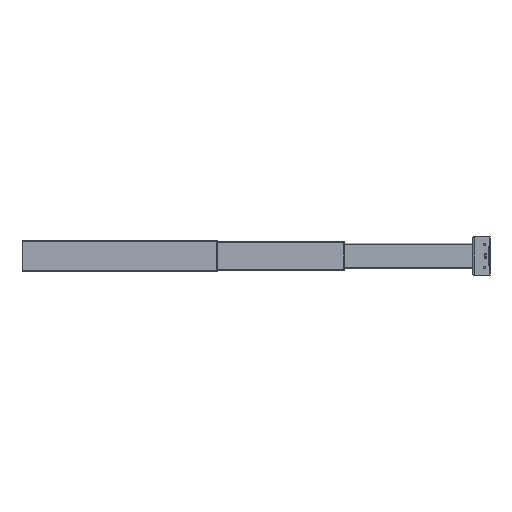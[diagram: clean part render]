
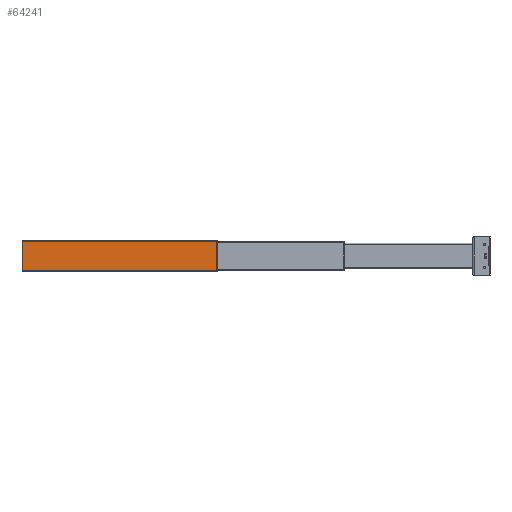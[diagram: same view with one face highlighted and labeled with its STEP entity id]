
A CAD part, left-side view. The second image highlights one B-rep face of the part: STEP entity #64241.
In plain terms, the highlighted planar face has unit normal (-1, 0, 0).
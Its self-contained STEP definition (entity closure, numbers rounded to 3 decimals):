
#4098 = ORIENTED_EDGE ( 'NONE', *, *, #124771, .F. ) ;
#6187 = VERTEX_POINT ( 'NONE', #116793 ) ;
#9270 = LINE ( 'NONE', #97737, #84566 ) ;
#11898 = EDGE_CURVE ( 'NONE', #20902, #15371, #9270, .T. ) ;
#14988 = DIRECTION ( 'NONE',  ( 0., 0., -1. ) ) ;
#15347 = DIRECTION ( 'NONE',  ( 0., 1., 0. ) ) ;
#15371 = VERTEX_POINT ( 'NONE', #65532 ) ;
#20084 = AXIS2_PLACEMENT_3D ( 'NONE', #45131, #85446, #15347 ) ;
#20902 = VERTEX_POINT ( 'NONE', #104096 ) ;
#26932 = ORIENTED_EDGE ( 'NONE', *, *, #97753, .T. ) ;
#36023 = LINE ( 'NONE', #100355, #59505 ) ;
#42233 = LINE ( 'NONE', #125288, #71986 ) ;
#45131 = CARTESIAN_POINT ( 'NONE',  ( -1.043, 27.402, -1.634 ) ) ;
#45858 = EDGE_LOOP ( 'NONE', ( #4098, #109076, #26932, #86127 ) ) ;
#59505 = VECTOR ( 'NONE', #88884, 39.37 ) ;
#64241 = ADVANCED_FACE ( 'NONE', ( #95767 ), #74899, .F. ) ;
#65532 = CARTESIAN_POINT ( 'NONE',  ( -1.043, 27.402, -1.555 ) ) ;
#67990 = VECTOR ( 'NONE', #68847, 39.37 ) ;
#68847 = DIRECTION ( 'NONE',  ( 0., 1., 0. ) ) ;
#71986 = VECTOR ( 'NONE', #14988, 39.37 ) ;
#74899 = PLANE ( 'NONE',  #20084 ) ;
#76294 = VERTEX_POINT ( 'NONE', #85198 ) ;
#78506 = CARTESIAN_POINT ( 'NONE',  ( -1.043, 27.402, 1.555 ) ) ;
#84566 = VECTOR ( 'NONE', #96873, 39.37 ) ;
#85198 = CARTESIAN_POINT ( 'NONE',  ( -1.043, 48.11, 1.555 ) ) ;
#85446 = DIRECTION ( 'NONE',  ( 1., 0., 0. ) ) ;
#86127 = ORIENTED_EDGE ( 'NONE', *, *, #11898, .T. ) ;
#88884 = DIRECTION ( 'NONE',  ( 0., 0., -1. ) ) ;
#95767 = FACE_OUTER_BOUND ( 'NONE', #45858, .T. ) ;
#96873 = DIRECTION ( 'NONE',  ( 0., -1., 0. ) ) ;
#97737 = CARTESIAN_POINT ( 'NONE',  ( -1.043, 27.402, -1.555 ) ) ;
#97753 = EDGE_CURVE ( 'NONE', #76294, #20902, #42233, .T. ) ;
#100355 = CARTESIAN_POINT ( 'NONE',  ( -1.043, 27.402, -1.634 ) ) ;
#102722 = LINE ( 'NONE', #78506, #67990 ) ;
#104096 = CARTESIAN_POINT ( 'NONE',  ( -1.043, 48.11, -1.555 ) ) ;
#105065 = EDGE_CURVE ( 'NONE', #6187, #76294, #102722, .T. ) ;
#109076 = ORIENTED_EDGE ( 'NONE', *, *, #105065, .T. ) ;
#116793 = CARTESIAN_POINT ( 'NONE',  ( -1.043, 27.402, 1.555 ) ) ;
#124771 = EDGE_CURVE ( 'NONE', #6187, #15371, #36023, .T. ) ;
#125288 = CARTESIAN_POINT ( 'NONE',  ( -1.043, 48.11, -1.634 ) ) ;
